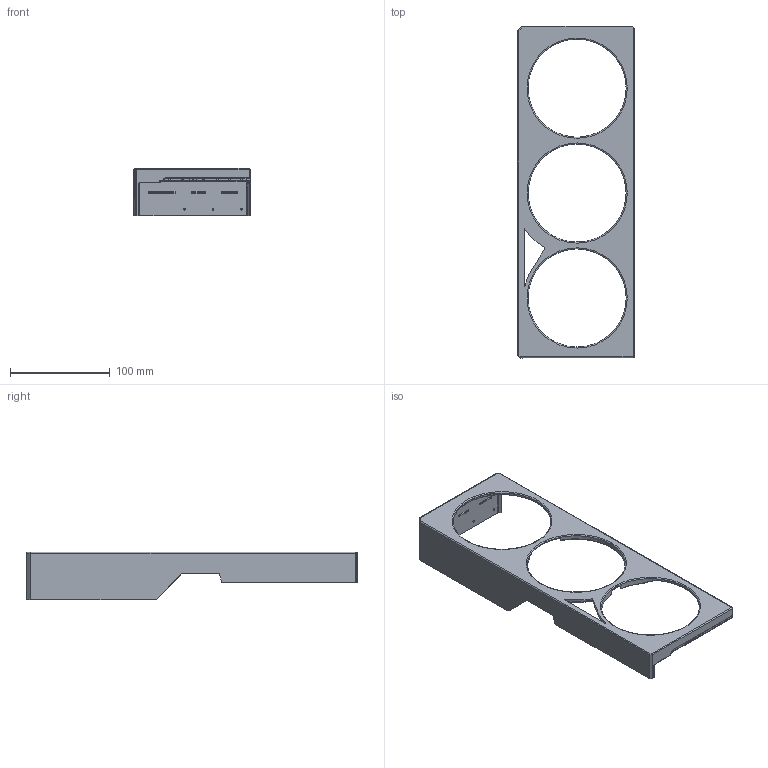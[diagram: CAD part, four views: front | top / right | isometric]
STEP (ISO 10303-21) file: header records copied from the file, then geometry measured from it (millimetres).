
FILE_DESCRIPTION((''),'2;1');
FILE_NAME('F332_MAKER_COVER_V2','2025-04-23T13:54:20',('Kate'),(''),'CREO PARAMETRIC BY PTC INC, 2021304','CREO PARAMETRIC BY PTC INC, 2021304','');
FILE_SCHEMA(('AUTOMOTIVE_DESIGN { 1 0 10303 214 1 1 1 1 }'));
Length unit declared in the file: millimetre
Products named in the file (1): F332_MAKER_COVER_V2
Bounding box: 116.2 x 332.2 x 47.5 mm (x, y, z)
Volume: 82485.5 mm3; surface area: 77566 mm2
Topology: 1 solids, 1 shells, 497 faces, 1355 edges, 868 vertices
Faces by surface type: plane 208, cylinder 91, bspline 73, cone 63, torus 40, extrusion 8, sphere 8, revolution 6
Entity records: 23758 total; most frequent: CARTESIAN_POINT 7136, ORIENTED_EDGE 2710, DIRECTION 2139, PRESENTATION_STYLE_ASSIGNMENT 1356, STYLED_ITEM 1356, CURVE_STYLE 1355, EDGE_CURVE 1355, VERTEX_POINT 868
